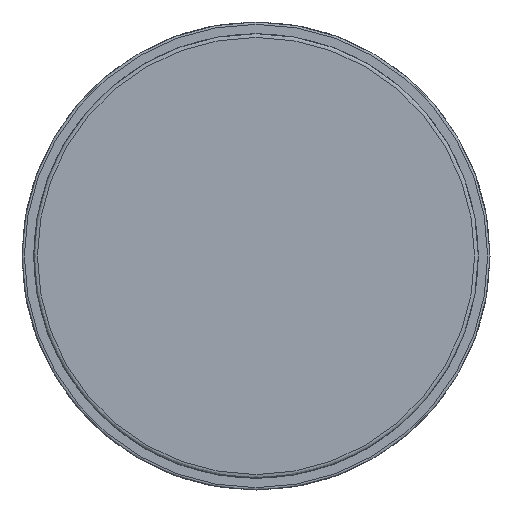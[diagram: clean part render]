
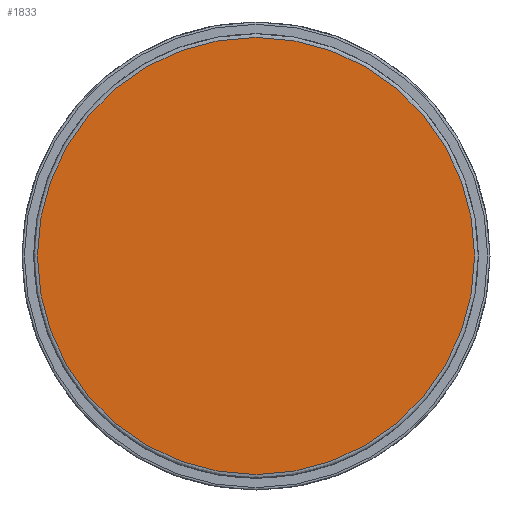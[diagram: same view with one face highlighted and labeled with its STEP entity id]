
A CAD part, left-side view. The second image highlights one B-rep face of the part: STEP entity #1833.
In plain terms, the highlighted planar face has unit normal (-1, 0, 0).
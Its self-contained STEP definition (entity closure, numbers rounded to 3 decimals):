
#1808=CARTESIAN_POINT('',(-526.004,-431.109,-56.862));
#1809=DIRECTION('',(-1.0,0.0,0.0));
#1810=DIRECTION('',(0.0,-1.0,0.0));
#1811=AXIS2_PLACEMENT_3D('',#1808,#1809,#1810);
#1812=PLANE('',#1811);
#1813=CARTESIAN_POINT('',(-526.004,-534.809,0.138));
#1814=VERTEX_POINT('',#1813);
#1815=CARTESIAN_POINT('',(-526.004,-441.409,0.138));
#1816=VERTEX_POINT('',#1815);
#1817=CARTESIAN_POINT('',(-526.004,-488.109,0.138));
#1818=DIRECTION('',(-1.0,0.0,0.0));
#1819=DIRECTION('',(0.0,-1.0,0.0));
#1820=AXIS2_PLACEMENT_3D('',#1817,#1818,#1819);
#1821=CIRCLE('',#1820,46.7);
#1822=EDGE_CURVE('',#1814,#1816,#1821,.T.);
#1823=ORIENTED_EDGE('',*,*,#1822,.T.);
#1824=CARTESIAN_POINT('',(-526.004,-488.109,0.138));
#1825=DIRECTION('',(-1.0,0.0,0.0));
#1826=DIRECTION('',(0.0,-1.0,0.0));
#1827=AXIS2_PLACEMENT_3D('',#1824,#1825,#1826);
#1828=CIRCLE('',#1827,46.7);
#1829=EDGE_CURVE('',#1816,#1814,#1828,.T.);
#1830=ORIENTED_EDGE('',*,*,#1829,.T.);
#1831=EDGE_LOOP('',(#1823,#1830));
#1832=FACE_OUTER_BOUND('',#1831,.T.);
#1833=ADVANCED_FACE('',(#1832),#1812,.T.);
